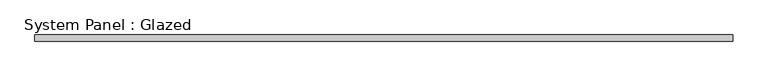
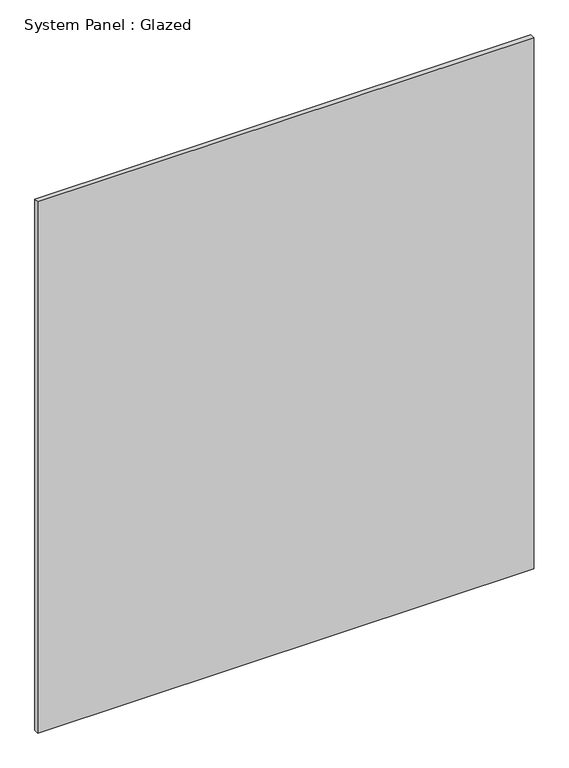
"""IFC4 building model written with IfcOpenShell, lengths in millimetres: plate geometry, System Panel : Glazed."""

from ifc_helpers import new_model, si_unit, origin, origin_with_axes, place, context, project, spatial, polyline, outline, extrude, source, transform, mapped, element, save


def system_panel_glazed_8894ad6a(model_context):
    return source(origin(), model_context, "Body", "SweptSolid", [
        extrude(outline(polyline([(1346.2, 19.05), (-1346.2, 19.05), (-1346.2, 44.45), (1346.2, 44.45), (1346.2, 19.05)])), origin_with_axes(), (0.0, 0.0, 1.0), 3048.0),
    ])


if __name__ == "__main__":
    model = new_model("IFC4")
    model_context = context("Model", 3, world=origin())
    ifc_project = project(units=[si_unit("LENGTHUNIT", "METRE", prefix="MILLI")], contexts=[model_context])
    site = spatial("IfcSite", under=ifc_project)
    building = spatial("IfcBuilding", under=site)
    placement = place(None, origin())
    system_panel_glazed_shape = system_panel_glazed_8894ad6a(model_context)
    element("IfcPlate", 1, ObjectType="System Panel : Glazed", at=placement, inside=building, context=model_context, shape_type="MappedRepresentation", body=[
        mapped(system_panel_glazed_shape, transform((0.0, 0.0, 0.0), x_axis=(1.0, 0.0, 0.0), y_axis=(0.0, 1.0, 0.0), z_axis=(0.0, 0.0, 1.0))),
    ])
    save(model, "model.ifc")
